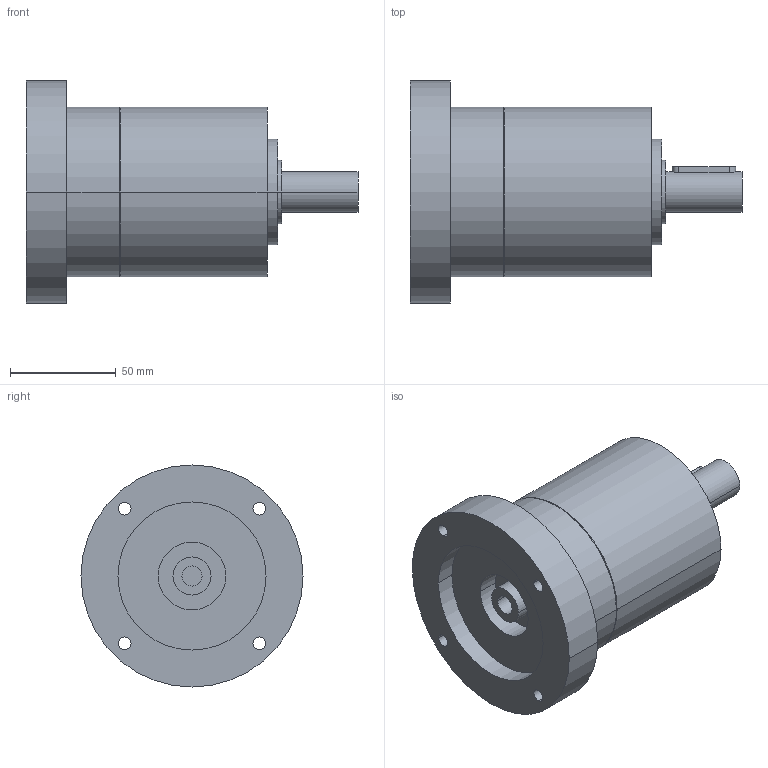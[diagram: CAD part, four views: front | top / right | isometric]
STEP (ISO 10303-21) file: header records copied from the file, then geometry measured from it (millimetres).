
FILE_DESCRIPTION(('CoCreate Modeling STEP Export'),'2;1');
FILE_NAME('GPR100_ig-3-4-5-6_19_B14_9.52_P14.stp','2014-08-26T10:09:43',(''),(''),'CoCreate Modeling STEP processor for AP214 (Solid Model)','CoCreate Modeling 16.00C 25-Feb-2009 (C) Parametric Technology GmbH','');
FILE_SCHEMA(('AUTOMOTIVE_DESIGN { 1 0 10303 214 1 1 1 1 }'));
Length unit declared in the file: millimetre
Products named in the file (2): GPR100_ig-3-4-5-6_19_B14_9.52_P14
Assembly tree (1 placements, depth 2):
  GPR100_ig-3-4-5-6_19_B14_9.52_P14
    GPR100_ig-3-4-5-6_19_B14_9.52_P14
Bounding box: 157 x 105 x 105 mm (x, y, z)
Volume: 616447.1 mm3; surface area: 58343.1 mm2
Topology: 1 solids, 1 shells, 76 faces, 201 edges, 143 vertices
Faces by surface type: cylinder 48, plane 22, cone 6
Entity records: 2017 total; most frequent: ORIENTED_EDGE 398, CARTESIAN_POINT 368, DIRECTION 262, EDGE_CURVE 199, VERTEX_POINT 143, EDGE_LOOP 102, AXIS2_PLACEMENT_3D 101, FACE_OUTER_BOUND 76
